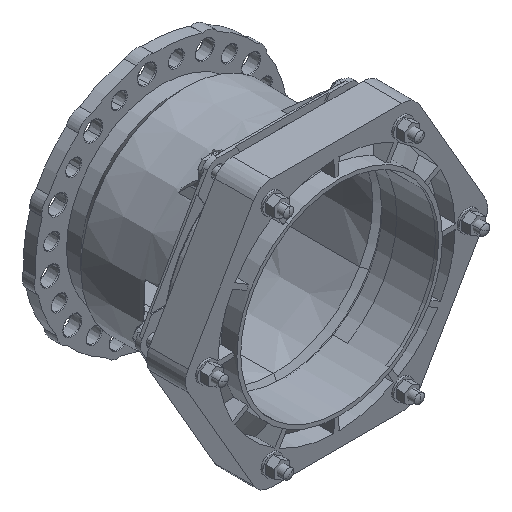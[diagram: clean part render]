
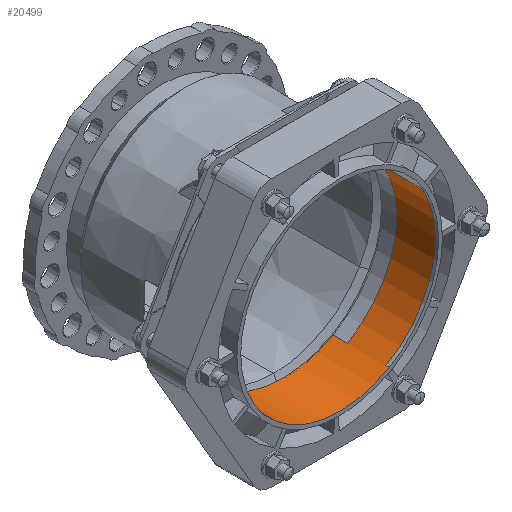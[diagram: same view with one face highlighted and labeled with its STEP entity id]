
A CAD part, isometric view. The second image highlights one B-rep face of the part: STEP entity #20499.
In plain terms, the highlighted cylindrical face has radius 156 mm (diameter 312 mm), a partial arc.
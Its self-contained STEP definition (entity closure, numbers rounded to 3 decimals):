
#18215=CARTESIAN_POINT('',(0.,0.,0.));
#18216=DIRECTION('',(0.,0.,1.));
#18217=DIRECTION('',(0.,1.,0.));
#18218=AXIS2_PLACEMENT_3D('',#18215,#18216,#18217);
#18220=DIRECTION('',(0.,0.,-1.));
#18221=VECTOR('',#18220,5.);
#18222=CARTESIAN_POINT('',(0.,156.,5.));
#18223=LINE('',#18222,#18221);
#18229=DIRECTION('',(0.,0.,-1.));
#18230=VECTOR('',#18229,5.);
#18231=CARTESIAN_POINT('',(0.,-156.,5.));
#18232=LINE('',#18231,#18230);
#18233=DIRECTION('',(0.,0.,-1.));
#18234=VECTOR('',#18233,23.989);
#18235=CARTESIAN_POINT('',(0.,-156.,-61.));
#18236=LINE('',#18235,#18234);
#18237=DIRECTION('',(0.,0.,-1.));
#18238=VECTOR('',#18237,23.989);
#18239=CARTESIAN_POINT('',(0.,156.,-61.));
#18240=LINE('',#18239,#18238);
#18241=CARTESIAN_POINT('',(0.,0.,-61.));
#18242=DIRECTION('',(0.,0.,1.));
#18243=DIRECTION('',(0.,1.,0.));
#18244=AXIS2_PLACEMENT_3D('',#18241,#18242,#18243);
#18246=DIRECTION('',(0.,0.,-1.));
#18247=VECTOR('',#18246,61.);
#18248=CARTESIAN_POINT('',(-156.,0.,0.));
#18249=LINE('',#18248,#18247);
#18250=CARTESIAN_POINT('',(0.,0.,-61.));
#18251=DIRECTION('',(0.,0.,1.));
#18252=DIRECTION('',(0.,-1.,0.));
#18253=AXIS2_PLACEMENT_3D('',#18250,#18251,#18252);
#18255=DIRECTION('',(0.,0.,-1.));
#18256=VECTOR('',#18255,61.);
#18257=CARTESIAN_POINT('',(156.,0.,0.));
#18258=LINE('',#18257,#18256);
#18259=CARTESIAN_POINT('',(0.,0.,0.));
#18260=DIRECTION('',(0.,0.,1.));
#18261=DIRECTION('',(0.,-1.,0.));
#18262=AXIS2_PLACEMENT_3D('',#18259,#18260,#18261);
#18264=CARTESIAN_POINT('',(0.,0.,5.));
#18265=DIRECTION('',(0.,0.,1.));
#18266=DIRECTION('',(0.,1.,0.));
#18267=AXIS2_PLACEMENT_3D('',#18264,#18265,#18266);
#18269=CARTESIAN_POINT('',(0.,0.,-84.989));
#18270=DIRECTION('',(0.,0.,1.));
#18271=DIRECTION('',(0.,1.,0.));
#18272=AXIS2_PLACEMENT_3D('',#18269,#18270,#18271);
#19001=CARTESIAN_POINT('',(0.,156.,5.));
#19002=CARTESIAN_POINT('',(0.,-156.,5.));
#19003=VERTEX_POINT('',#19001);
#19004=VERTEX_POINT('',#19002);
#19005=CARTESIAN_POINT('',(0.,156.,0.));
#19006=CARTESIAN_POINT('',(-156.,0.,0.));
#19007=VERTEX_POINT('',#19005);
#19008=VERTEX_POINT('',#19006);
#19009=CARTESIAN_POINT('',(0.,-156.,0.));
#19010=CARTESIAN_POINT('',(156.,0.,0.));
#19011=VERTEX_POINT('',#19009);
#19012=VERTEX_POINT('',#19010);
#19013=CARTESIAN_POINT('',(156.,0.,-61.));
#19014=VERTEX_POINT('',#19013);
#19015=CARTESIAN_POINT('',(-156.,0.,-61.));
#19016=VERTEX_POINT('',#19015);
#19313=CARTESIAN_POINT('',(0.,156.,-84.989));
#19315=VERTEX_POINT('',#19313);
#19317=CARTESIAN_POINT('',(0.,-156.,-84.989));
#19319=VERTEX_POINT('',#19317);
#19321=CARTESIAN_POINT('',(0.,156.,-61.));
#19322=VERTEX_POINT('',#19321);
#19327=CARTESIAN_POINT('',(0.,-156.,-61.));
#19328=VERTEX_POINT('',#19327);
#20479=CARTESIAN_POINT('',(0.,0.,0.));
#20480=DIRECTION('',(0.,0.,1.));
#20481=DIRECTION('',(1.,0.,0.));
#20482=AXIS2_PLACEMENT_3D('',#20479,#20480,#20481);
#20483=CYLINDRICAL_SURFACE('',#20482,156.);
#20484=ORIENTED_EDGE('',*,*,#20474,.T.);
#20485=ORIENTED_EDGE('',*,*,#20472,.F.);
#20486=ORIENTED_EDGE('',*,*,#20470,.T.);
#20488=ORIENTED_EDGE('',*,*,#20487,.T.);
#20489=ORIENTED_EDGE('',*,*,#20466,.F.);
#20490=ORIENTED_EDGE('',*,*,#20464,.T.);
#20491=ORIENTED_EDGE('',*,*,#20462,.F.);
#20492=ORIENTED_EDGE('',*,*,#20460,.F.);
#20493=ORIENTED_EDGE('',*,*,#20458,.F.);
#20494=ORIENTED_EDGE('',*,*,#20443,.F.);
#20495=ORIENTED_EDGE('',*,*,#20455,.T.);
#20496=ORIENTED_EDGE('',*,*,#20453,.T.);
#20497=EDGE_LOOP('',(#20484,#20485,#20486,#20488,#20489,#20490,#20491,#20492,
#20493,#20494,#20495,#20496));
#20498=FACE_OUTER_BOUND('',#20497,.F.);
#20499=ADVANCED_FACE('',(#20498),#20483,.F.);
#18219=CIRCLE('',#18218,156.);
#18245=CIRCLE('',#18244,156.);
#18254=CIRCLE('',#18253,156.);
#18263=CIRCLE('',#18262,156.);
#18268=CIRCLE('',#18267,156.);
#18273=CIRCLE('',#18272,156.);
#20443=EDGE_CURVE('',#19003,#19004,#18268,.T.);
#20453=EDGE_CURVE('',#19007,#19008,#18219,.T.);
#20455=EDGE_CURVE('',#19003,#19007,#18223,.T.);
#20458=EDGE_CURVE('',#19004,#19011,#18232,.T.);
#20460=EDGE_CURVE('',#19011,#19012,#18263,.T.);
#20462=EDGE_CURVE('',#19012,#19014,#18258,.T.);
#20464=EDGE_CURVE('',#19328,#19014,#18254,.T.);
#20466=EDGE_CURVE('',#19328,#19319,#18236,.T.);
#20470=EDGE_CURVE('',#19322,#19315,#18240,.T.);
#20472=EDGE_CURVE('',#19322,#19016,#18245,.T.);
#20474=EDGE_CURVE('',#19008,#19016,#18249,.T.);
#20487=EDGE_CURVE('',#19315,#19319,#18273,.T.);
